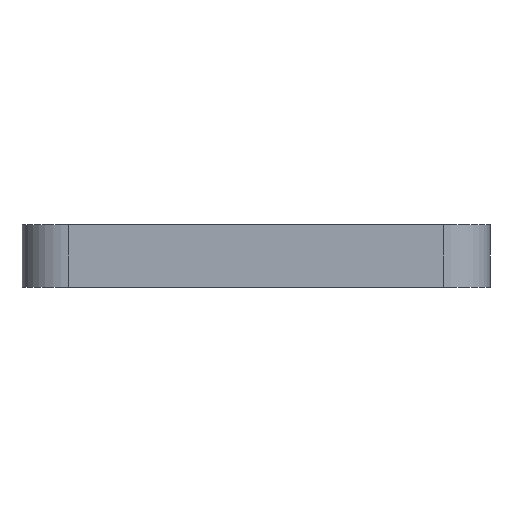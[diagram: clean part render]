
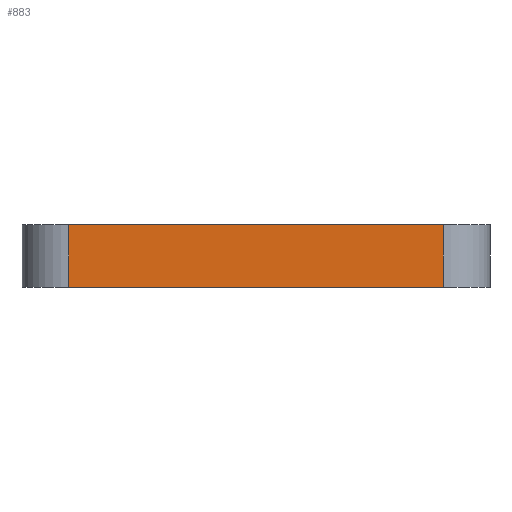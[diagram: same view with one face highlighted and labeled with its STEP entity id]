
A CAD part, left-side view. The second image highlights one B-rep face of the part: STEP entity #883.
In plain terms, the highlighted planar face has unit normal (-1, 0, 0).
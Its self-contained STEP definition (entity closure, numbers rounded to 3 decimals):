
#44 = PLANE('',#45);
#45 = AXIS2_PLACEMENT_3D('',#46,#47,#48);
#46 = CARTESIAN_POINT('',(0.,0.,0.));
#47 = DIRECTION('',(0.,0.,1.));
#48 = DIRECTION('',(1.,0.,-0.));
#72 = CYLINDRICAL_SURFACE('',#73,3.);
#73 = AXIS2_PLACEMENT_3D('',#74,#75,#76);
#74 = CARTESIAN_POINT('',(-40.,-12.,0.));
#75 = DIRECTION('',(0.,0.,1.));
#76 = DIRECTION('',(0.,-1.,0.));
#100 = PLANE('',#101);
#101 = AXIS2_PLACEMENT_3D('',#102,#103,#104);
#102 = CARTESIAN_POINT('',(0.,0.,4.));
#103 = DIRECTION('',(0.,0.,1.));
#104 = DIRECTION('',(1.,0.,-0.));
#252 = VERTEX_POINT('',#253);
#253 = CARTESIAN_POINT('',(-43.,12.,0.));
#268 = CYLINDRICAL_SURFACE('',#269,3.);
#269 = AXIS2_PLACEMENT_3D('',#270,#271,#272);
#270 = CARTESIAN_POINT('',(-40.,12.,0.));
#271 = DIRECTION('',(0.,0.,1.));
#272 = DIRECTION('',(-0.,1.,0.));
#280 = EDGE_CURVE('',#252,#281,#283,.T.);
#281 = VERTEX_POINT('',#282);
#282 = CARTESIAN_POINT('',(-43.,-12.,0.));
#283 = SURFACE_CURVE('',#284,(#288,#295),.PCURVE_S1.);
#284 = LINE('',#285,#286);
#285 = CARTESIAN_POINT('',(-43.,15.,0.));
#286 = VECTOR('',#287,1.);
#287 = DIRECTION('',(0.,-1.,0.));
#288 = PCURVE('',#44,#289);
#289 = DEFINITIONAL_REPRESENTATION('',(#290),#294);
#290 = LINE('',#291,#292);
#291 = CARTESIAN_POINT('',(-43.,15.));
#292 = VECTOR('',#293,1.);
#293 = DIRECTION('',(0.,-1.));
#294 = ( GEOMETRIC_REPRESENTATION_CONTEXT(2) 
PARAMETRIC_REPRESENTATION_CONTEXT() REPRESENTATION_CONTEXT('2D SPACE',''
  ) );
#295 = PCURVE('',#296,#301);
#296 = PLANE('',#297);
#297 = AXIS2_PLACEMENT_3D('',#298,#299,#300);
#298 = CARTESIAN_POINT('',(-43.,15.,0.));
#299 = DIRECTION('',(1.,0.,-0.));
#300 = DIRECTION('',(0.,-1.,0.));
#301 = DEFINITIONAL_REPRESENTATION('',(#302),#306);
#302 = LINE('',#303,#304);
#303 = CARTESIAN_POINT('',(0.,0.));
#304 = VECTOR('',#305,1.);
#305 = DIRECTION('',(1.,0.));
#306 = ( GEOMETRIC_REPRESENTATION_CONTEXT(2) 
PARAMETRIC_REPRESENTATION_CONTEXT() REPRESENTATION_CONTEXT('2D SPACE',''
  ) );
#513 = EDGE_CURVE('',#281,#514,#516,.T.);
#514 = VERTEX_POINT('',#515);
#515 = CARTESIAN_POINT('',(-43.,-12.,4.));
#516 = SURFACE_CURVE('',#517,(#521,#528),.PCURVE_S1.);
#517 = LINE('',#518,#519);
#518 = CARTESIAN_POINT('',(-43.,-12.,0.));
#519 = VECTOR('',#520,1.);
#520 = DIRECTION('',(0.,0.,1.));
#521 = PCURVE('',#72,#522);
#522 = DEFINITIONAL_REPRESENTATION('',(#523),#527);
#523 = LINE('',#524,#525);
#524 = CARTESIAN_POINT('',(-1.571,0.));
#525 = VECTOR('',#526,1.);
#526 = DIRECTION('',(-0.,1.));
#527 = ( GEOMETRIC_REPRESENTATION_CONTEXT(2) 
PARAMETRIC_REPRESENTATION_CONTEXT() REPRESENTATION_CONTEXT('2D SPACE',''
  ) );
#528 = PCURVE('',#296,#529);
#529 = DEFINITIONAL_REPRESENTATION('',(#530),#534);
#530 = LINE('',#531,#532);
#531 = CARTESIAN_POINT('',(27.,0.));
#532 = VECTOR('',#533,1.);
#533 = DIRECTION('',(0.,-1.));
#534 = ( GEOMETRIC_REPRESENTATION_CONTEXT(2) 
PARAMETRIC_REPRESENTATION_CONTEXT() REPRESENTATION_CONTEXT('2D SPACE',''
  ) );
#689 = VERTEX_POINT('',#690);
#690 = CARTESIAN_POINT('',(-43.,12.,4.));
#712 = EDGE_CURVE('',#689,#514,#713,.T.);
#713 = SURFACE_CURVE('',#714,(#718,#725),.PCURVE_S1.);
#714 = LINE('',#715,#716);
#715 = CARTESIAN_POINT('',(-43.,15.,4.));
#716 = VECTOR('',#717,1.);
#717 = DIRECTION('',(0.,-1.,0.));
#718 = PCURVE('',#100,#719);
#719 = DEFINITIONAL_REPRESENTATION('',(#720),#724);
#720 = LINE('',#721,#722);
#721 = CARTESIAN_POINT('',(-43.,15.));
#722 = VECTOR('',#723,1.);
#723 = DIRECTION('',(0.,-1.));
#724 = ( GEOMETRIC_REPRESENTATION_CONTEXT(2) 
PARAMETRIC_REPRESENTATION_CONTEXT() REPRESENTATION_CONTEXT('2D SPACE',''
  ) );
#725 = PCURVE('',#296,#726);
#726 = DEFINITIONAL_REPRESENTATION('',(#727),#731);
#727 = LINE('',#728,#729);
#728 = CARTESIAN_POINT('',(0.,-4.));
#729 = VECTOR('',#730,1.);
#730 = DIRECTION('',(1.,0.));
#731 = ( GEOMETRIC_REPRESENTATION_CONTEXT(2) 
PARAMETRIC_REPRESENTATION_CONTEXT() REPRESENTATION_CONTEXT('2D SPACE',''
  ) );
#883 = ADVANCED_FACE('',(#884),#296,.F.);
#884 = FACE_BOUND('',#885,.F.);
#885 = EDGE_LOOP('',(#886,#887,#908,#909));
#886 = ORIENTED_EDGE('',*,*,#280,.F.);
#887 = ORIENTED_EDGE('',*,*,#888,.T.);
#888 = EDGE_CURVE('',#252,#689,#889,.T.);
#889 = SURFACE_CURVE('',#890,(#894,#901),.PCURVE_S1.);
#890 = LINE('',#891,#892);
#891 = CARTESIAN_POINT('',(-43.,12.,0.));
#892 = VECTOR('',#893,1.);
#893 = DIRECTION('',(0.,0.,1.));
#894 = PCURVE('',#296,#895);
#895 = DEFINITIONAL_REPRESENTATION('',(#896),#900);
#896 = LINE('',#897,#898);
#897 = CARTESIAN_POINT('',(3.,0.));
#898 = VECTOR('',#899,1.);
#899 = DIRECTION('',(0.,-1.));
#900 = ( GEOMETRIC_REPRESENTATION_CONTEXT(2) 
PARAMETRIC_REPRESENTATION_CONTEXT() REPRESENTATION_CONTEXT('2D SPACE',''
  ) );
#901 = PCURVE('',#268,#902);
#902 = DEFINITIONAL_REPRESENTATION('',(#903),#907);
#903 = LINE('',#904,#905);
#904 = CARTESIAN_POINT('',(1.571,0.));
#905 = VECTOR('',#906,1.);
#906 = DIRECTION('',(0.,1.));
#907 = ( GEOMETRIC_REPRESENTATION_CONTEXT(2) 
PARAMETRIC_REPRESENTATION_CONTEXT() REPRESENTATION_CONTEXT('2D SPACE',''
  ) );
#908 = ORIENTED_EDGE('',*,*,#712,.T.);
#909 = ORIENTED_EDGE('',*,*,#513,.F.);
